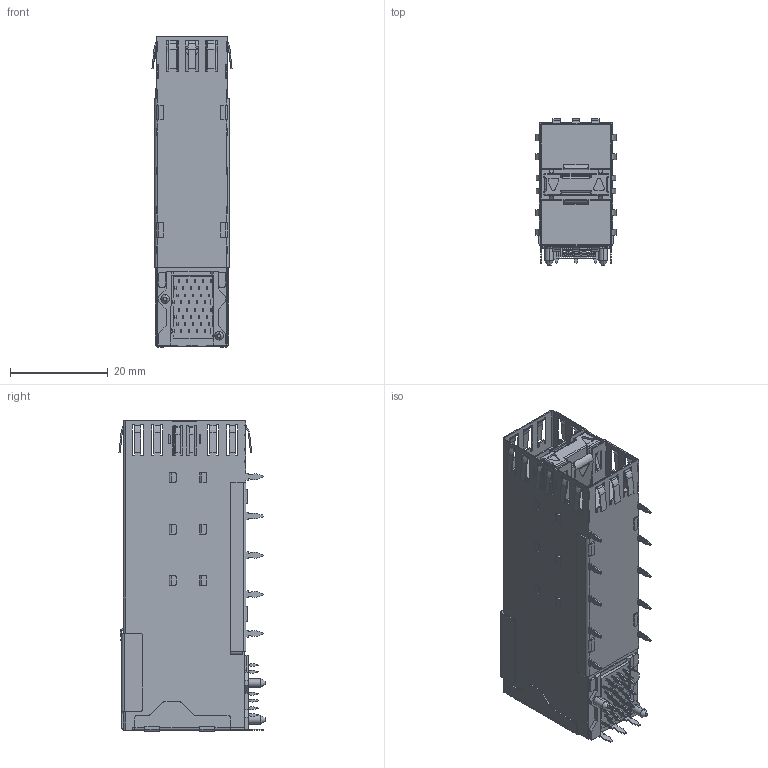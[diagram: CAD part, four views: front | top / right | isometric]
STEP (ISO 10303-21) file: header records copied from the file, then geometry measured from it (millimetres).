
FILE_DESCRIPTION((''),'2;1');
FILE_NAME('756405003','2015-07-13T',('me'),(''),'PRO/ENGINEER BY PARAMETRIC TECHNOLOGY CORPORATION, 2011490','PRO/ENGINEER BY PARAMETRIC TECHNOLOGY CORPORATION, 2011490','');
FILE_SCHEMA(('CONFIG_CONTROL_DESIGN'));
Products named in the file (1): 756405003
Bounding box: 16.35 x 29.83 x 63.5 mm (x, y, z)
Volume: 20705.2 mm3; surface area: 7556.2 mm2
Topology: 1 solids, 1 shells, 1825 faces, 5445 edges, 3628 vertices
Faces by surface type: plane 1138, cylinder 661, sphere 14, torus 8, cone 4
Entity records: 61866 total; most frequent: CARTESIAN_POINT 11844, ORIENTED_EDGE 10626, DIRECTION 10220, EDGE_CURVE 5313, VECTOR 3848, LINE 3848, VERTEX_POINT 3510, AXIS2_PLACEMENT_3D 3186
